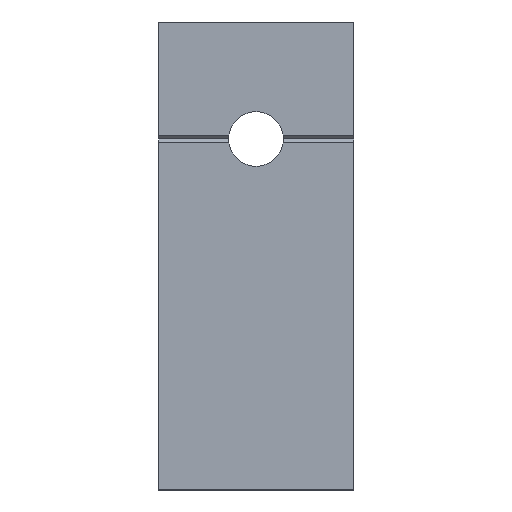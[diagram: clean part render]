
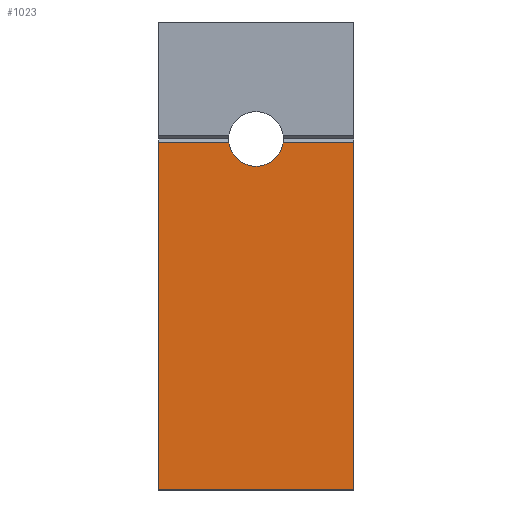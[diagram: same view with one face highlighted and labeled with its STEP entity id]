
A CAD part, left-side view. The second image highlights one B-rep face of the part: STEP entity #1023.
In plain terms, the highlighted planar face has unit normal (-1, 0, 0).
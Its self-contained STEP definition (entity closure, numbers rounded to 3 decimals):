
#64=CIRCLE('',#1112,3.5);
#183=ORIENTED_EDGE('',*,*,#473,.F.);
#184=ORIENTED_EDGE('',*,*,#474,.T.);
#185=ORIENTED_EDGE('',*,*,#456,.F.);
#186=ORIENTED_EDGE('',*,*,#467,.F.);
#187=ORIENTED_EDGE('',*,*,#475,.T.);
#188=ORIENTED_EDGE('',*,*,#427,.T.);
#427=EDGE_CURVE('',#577,#575,#671,.T.);
#456=EDGE_CURVE('',#604,#605,#691,.T.);
#467=EDGE_CURVE('',#609,#604,#699,.T.);
#473=EDGE_CURVE('',#613,#575,#64,.T.);
#474=EDGE_CURVE('',#613,#605,#704,.T.);
#475=EDGE_CURVE('',#609,#577,#705,.T.);
#575=VERTEX_POINT('',#1565);
#577=VERTEX_POINT('',#1568);
#604=VERTEX_POINT('',#1625);
#605=VERTEX_POINT('',#1627);
#609=VERTEX_POINT('',#1642);
#613=VERTEX_POINT('',#1655);
#671=LINE('',#1567,#780);
#691=LINE('',#1626,#800);
#699=LINE('',#1643,#808);
#704=LINE('',#1656,#813);
#705=LINE('',#1657,#814);
#780=VECTOR('',#1247,1000.);
#800=VECTOR('',#1289,1000.);
#808=VECTOR('',#1305,1000.);
#813=VECTOR('',#1318,1000.);
#814=VECTOR('',#1319,1000.);
#872=EDGE_LOOP('',(#183,#184,#185,#186,#187,#188));
#929=FACE_BOUND('',#872,.T.);
#984=PLANE('',#1111);
#1023=ADVANCED_FACE('',(#929),#984,.T.);
#1111=AXIS2_PLACEMENT_3D('',#1653,#1314,#1315);
#1112=AXIS2_PLACEMENT_3D('',#1654,#1316,#1317);
#1247=DIRECTION('',(0.,1.,0.));
#1289=DIRECTION('',(0.,0.,1.));
#1305=DIRECTION('',(0.,1.,0.));
#1314=DIRECTION('',(-1.,0.,0.));
#1315=DIRECTION('',(0.,0.,1.));
#1316=DIRECTION('',(-1.,0.,0.));
#1317=DIRECTION('',(0.,0.,1.));
#1318=DIRECTION('',(0.,1.,0.));
#1319=DIRECTION('',(0.,0.,1.));
#1565=CARTESIAN_POINT('',(0.,-3.464,44.5));
#1567=CARTESIAN_POINT('',(0.,-12.5,44.5));
#1568=CARTESIAN_POINT('',(0.,-12.5,44.5));
#1625=CARTESIAN_POINT('',(0.,12.5,0.));
#1626=CARTESIAN_POINT('',(0.,12.5,0.));
#1627=CARTESIAN_POINT('',(0.,12.5,44.5));
#1642=CARTESIAN_POINT('',(0.,-12.5,0.));
#1643=CARTESIAN_POINT('',(0.,-12.5,0.));
#1653=CARTESIAN_POINT('',(0.,-12.5,0.));
#1654=CARTESIAN_POINT('',(0.,0.,45.));
#1655=CARTESIAN_POINT('',(0.,3.464,44.5));
#1656=CARTESIAN_POINT('',(0.,-12.5,44.5));
#1657=CARTESIAN_POINT('',(0.,-12.5,0.));
